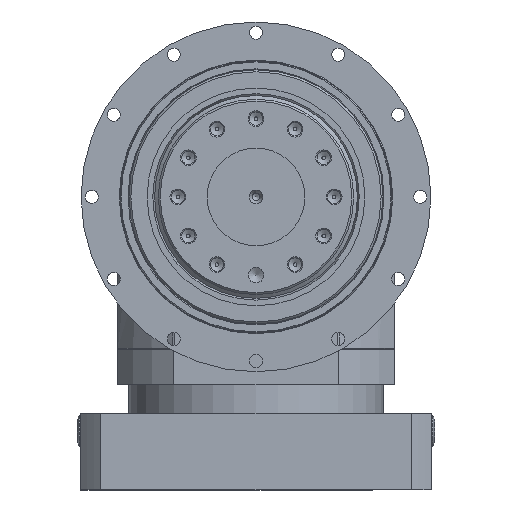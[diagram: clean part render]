
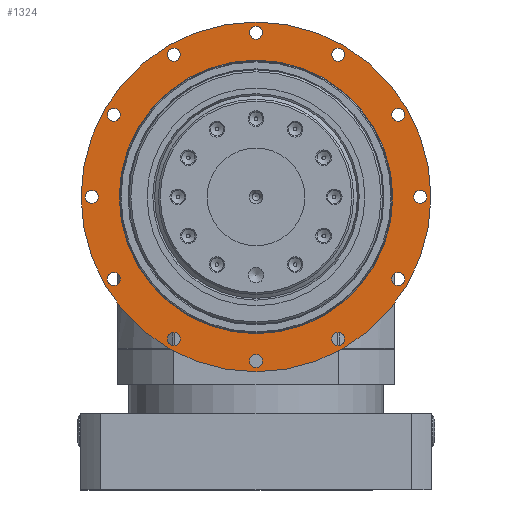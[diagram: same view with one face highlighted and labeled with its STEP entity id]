
A CAD part, left-side view. The second image highlights one B-rep face of the part: STEP entity #1324.
In plain terms, the highlighted planar face has unit normal (-1, 0, 0).
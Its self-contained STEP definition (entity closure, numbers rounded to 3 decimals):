
#122 = FACE_BOUND ( 'NONE', #4419, .T. ) ;
#356 = CIRCLE ( 'NONE', #11485, 3.3 ) ;
#486 = AXIS2_PLACEMENT_3D ( 'NONE', #10011, #10072, #11437 ) ;
#623 = DIRECTION ( 'NONE',  ( -1., 0., 0. ) ) ;
#681 = DIRECTION ( 'NONE',  ( 0., 0., 1. ) ) ;
#885 = EDGE_CURVE ( 'NONE', #9227, #9227, #6410, .T. ) ;
#926 = CIRCLE ( 'NONE', #486, 3.3 ) ;
#958 = VERTEX_POINT ( 'NONE', #5589 ) ;
#1005 = DIRECTION ( 'NONE',  ( -1., 0., 0. ) ) ;
#1324 = ADVANCED_FACE ( 'NONE', ( #3575, #10211, #122, #13407, #6193, #2750, #15624, #12218, #8806, #11821, #8387, #4987, #1537, #3133 ), #10986, .F. ) ;
#1537 = FACE_BOUND ( 'NONE', #12781, .T. ) ;
#1880 = CARTESIAN_POINT ( 'NONE',  ( -48.5, 0., 84. ) ) ;
#1935 = VERTEX_POINT ( 'NONE', #6717 ) ;
#2070 = CARTESIAN_POINT ( 'NONE',  ( -48.5, 0., 89.5 ) ) ;
#2124 = CARTESIAN_POINT ( 'NONE',  ( -48.5, 72.746, -38.7 ) ) ;
#2707 = CARTESIAN_POINT ( 'NONE',  ( -48.5, -84., 3.3 ) ) ;
#2739 = AXIS2_PLACEMENT_3D ( 'NONE', #4477, #623, #4252 ) ;
#2750 = FACE_BOUND ( 'NONE', #8729, .T. ) ;
#2867 = DIRECTION ( 'NONE',  ( 0., 0., 1. ) ) ;
#3038 = CIRCLE ( 'NONE', #7899, 3.3 ) ;
#3056 = EDGE_LOOP ( 'NONE', ( #4514 ) ) ;
#3133 = FACE_OUTER_BOUND ( 'NONE', #3056, .T. ) ;
#3146 = CARTESIAN_POINT ( 'NONE',  ( -48.5, -42., -69.446 ) ) ;
#3314 = CARTESIAN_POINT ( 'NONE',  ( -48.5, -72.746, -38.7 ) ) ;
#3501 = CARTESIAN_POINT ( 'NONE',  ( -48.5, 0., 70. ) ) ;
#3575 = FACE_BOUND ( 'NONE', #11462, .T. ) ;
#3779 = ORIENTED_EDGE ( 'NONE', *, *, #6993, .F. ) ;
#3882 = EDGE_LOOP ( 'NONE', ( #3779 ) ) ;
#4139 = AXIS2_PLACEMENT_3D ( 'NONE', #10358, #11639, #12869 ) ;
#4155 = EDGE_CURVE ( 'NONE', #5394, #5394, #3038, .T. ) ;
#4246 = CARTESIAN_POINT ( 'NONE',  ( -48.5, 84., 3.3 ) ) ;
#4252 = DIRECTION ( 'NONE',  ( 0., 0., 1. ) ) ;
#4286 = AXIS2_PLACEMENT_3D ( 'NONE', #11259, #12334, #9785 ) ;
#4388 = VERTEX_POINT ( 'NONE', #9407 ) ;
#4419 = EDGE_LOOP ( 'NONE', ( #14972 ) ) ;
#4471 = EDGE_LOOP ( 'NONE', ( #4990 ) ) ;
#4477 = CARTESIAN_POINT ( 'NONE',  ( -48.5, -42., 72.746 ) ) ;
#4503 = DIRECTION ( 'NONE',  ( -1., 0., 0. ) ) ;
#4511 = ORIENTED_EDGE ( 'NONE', *, *, #4155, .F. ) ;
#4514 = ORIENTED_EDGE ( 'NONE', *, *, #14820, .T. ) ;
#4575 = VERTEX_POINT ( 'NONE', #2070 ) ;
#4800 = DIRECTION ( 'NONE',  ( -1., 0., 0. ) ) ;
#4955 = DIRECTION ( 'NONE',  ( 0., 0., 1. ) ) ;
#4963 = CIRCLE ( 'NONE', #4286, 3.3 ) ;
#4987 = FACE_BOUND ( 'NONE', #15928, .T. ) ;
#4990 = ORIENTED_EDGE ( 'NONE', *, *, #9610, .F. ) ;
#5002 = ORIENTED_EDGE ( 'NONE', *, *, #5663, .F. ) ;
#5005 = ORIENTED_EDGE ( 'NONE', *, *, #15654, .F. ) ;
#5094 = DIRECTION ( 'NONE',  ( -1., 0., 0. ) ) ;
#5110 = ORIENTED_EDGE ( 'NONE', *, *, #16584, .F. ) ;
#5168 = EDGE_CURVE ( 'NONE', #958, #958, #356, .T. ) ;
#5230 = CIRCLE ( 'NONE', #13585, 70. ) ;
#5267 = CIRCLE ( 'NONE', #7047, 3.3 ) ;
#5308 = ORIENTED_EDGE ( 'NONE', *, *, #885, .F. ) ;
#5394 = VERTEX_POINT ( 'NONE', #4246 ) ;
#5589 = CARTESIAN_POINT ( 'NONE',  ( -48.5, 0., -80.7 ) ) ;
#5663 = EDGE_CURVE ( 'NONE', #4388, #4388, #5267, .T. ) ;
#5682 = DIRECTION ( 'NONE',  ( 0., 0., 1. ) ) ;
#5773 = VERTEX_POINT ( 'NONE', #3314 ) ;
#5786 = ORIENTED_EDGE ( 'NONE', *, *, #9661, .F. ) ;
#6153 = CARTESIAN_POINT ( 'NONE',  ( -48.5, -84., 0. ) ) ;
#6193 = FACE_BOUND ( 'NONE', #8058, .T. ) ;
#6194 = CIRCLE ( 'NONE', #11157, 3.3 ) ;
#6370 = CIRCLE ( 'NONE', #16664, 3.3 ) ;
#6410 = CIRCLE ( 'NONE', #10432, 3.3 ) ;
#6717 = CARTESIAN_POINT ( 'NONE',  ( -48.5, 42., -69.446 ) ) ;
#6723 = CARTESIAN_POINT ( 'NONE',  ( -48.5, -72.746, 42. ) ) ;
#6770 = VERTEX_POINT ( 'NONE', #3501 ) ;
#6993 = EDGE_CURVE ( 'NONE', #16020, #16020, #6194, .T. ) ;
#7047 = AXIS2_PLACEMENT_3D ( 'NONE', #1880, #8479, #5682 ) ;
#7205 = DIRECTION ( 'NONE',  ( -1., 0., 0. ) ) ;
#7228 = EDGE_LOOP ( 'NONE', ( #5110 ) ) ;
#7529 = ORIENTED_EDGE ( 'NONE', *, *, #14310, .F. ) ;
#7585 = VERTEX_POINT ( 'NONE', #16366 ) ;
#7899 = AXIS2_PLACEMENT_3D ( 'NONE', #9602, #4503, #14759 ) ;
#8055 = CARTESIAN_POINT ( 'NONE',  ( -48.5, 0., -84. ) ) ;
#8058 = EDGE_LOOP ( 'NONE', ( #8529 ) ) ;
#8263 = EDGE_CURVE ( 'NONE', #1935, #1935, #16295, .T. ) ;
#8387 = FACE_BOUND ( 'NONE', #14651, .T. ) ;
#8479 = DIRECTION ( 'NONE',  ( -1., 0., 0. ) ) ;
#8492 = DIRECTION ( 'NONE',  ( 0., 0., -1. ) ) ;
#8529 = ORIENTED_EDGE ( 'NONE', *, *, #9520, .F. ) ;
#8692 = ORIENTED_EDGE ( 'NONE', *, *, #8263, .F. ) ;
#8729 = EDGE_LOOP ( 'NONE', ( #5308 ) ) ;
#8749 = ORIENTED_EDGE ( 'NONE', *, *, #14992, .F. ) ;
#8806 = FACE_BOUND ( 'NONE', #15014, .T. ) ;
#9200 = DIRECTION ( 'NONE',  ( 0., 0., 1. ) ) ;
#9227 = VERTEX_POINT ( 'NONE', #2707 ) ;
#9253 = DIRECTION ( 'NONE',  ( -1., 0., 0. ) ) ;
#9359 = CARTESIAN_POINT ( 'NONE',  ( -48.5, -72.746, 45.3 ) ) ;
#9407 = CARTESIAN_POINT ( 'NONE',  ( -48.5, 0., 87.3 ) ) ;
#9435 = CIRCLE ( 'NONE', #2739, 3.3 ) ;
#9520 = EDGE_CURVE ( 'NONE', #5773, #5773, #4963, .T. ) ;
#9602 = CARTESIAN_POINT ( 'NONE',  ( -48.5, 84., 0. ) ) ;
#9610 = EDGE_CURVE ( 'NONE', #10821, #10821, #6370, .T. ) ;
#9661 = EDGE_CURVE ( 'NONE', #16642, #16642, #926, .T. ) ;
#9785 = DIRECTION ( 'NONE',  ( 0., 0., 1. ) ) ;
#9879 = CIRCLE ( 'NONE', #11460, 3.3 ) ;
#10011 = CARTESIAN_POINT ( 'NONE',  ( -48.5, 42., 72.746 ) ) ;
#10072 = DIRECTION ( 'NONE',  ( -1., 0., 0. ) ) ;
#10104 = EDGE_LOOP ( 'NONE', ( #5786 ) ) ;
#10211 = FACE_BOUND ( 'NONE', #11544, .T. ) ;
#10236 = CARTESIAN_POINT ( 'NONE',  ( -48.5, 0., 0. ) ) ;
#10358 = CARTESIAN_POINT ( 'NONE',  ( -48.5, 72.746, 42. ) ) ;
#10432 = AXIS2_PLACEMENT_3D ( 'NONE', #6153, #5094, #15196 ) ;
#10490 = CIRCLE ( 'NONE', #14557, 89.5 ) ;
#10649 = DIRECTION ( 'NONE',  ( -1., 0., 0. ) ) ;
#10821 = VERTEX_POINT ( 'NONE', #3146 ) ;
#10894 = CARTESIAN_POINT ( 'NONE',  ( -48.5, 0., 0. ) ) ;
#10986 = PLANE ( 'NONE',  #12154 ) ;
#10993 = CARTESIAN_POINT ( 'NONE',  ( -48.5, 42., 76.046 ) ) ;
#11054 = DIRECTION ( 'NONE',  ( -1., 0., 0. ) ) ;
#11101 = CARTESIAN_POINT ( 'NONE',  ( -48.5, 72.746, 45.3 ) ) ;
#11157 = AXIS2_PLACEMENT_3D ( 'NONE', #6723, #9253, #9200 ) ;
#11166 = DIRECTION ( 'NONE',  ( 0., 0., 1. ) ) ;
#11259 = CARTESIAN_POINT ( 'NONE',  ( -48.5, -72.746, -42. ) ) ;
#11264 = CARTESIAN_POINT ( 'NONE',  ( -48.5, 42., -72.746 ) ) ;
#11437 = DIRECTION ( 'NONE',  ( 0., 0., 1. ) ) ;
#11460 = AXIS2_PLACEMENT_3D ( 'NONE', #12400, #14966, #11166 ) ;
#11462 = EDGE_LOOP ( 'NONE', ( #7529 ) ) ;
#11485 = AXIS2_PLACEMENT_3D ( 'NONE', #8055, #10649, #2867 ) ;
#11544 = EDGE_LOOP ( 'NONE', ( #8692 ) ) ;
#11639 = DIRECTION ( 'NONE',  ( -1., 0., 0. ) ) ;
#11821 = FACE_BOUND ( 'NONE', #10104, .T. ) ;
#12154 = AXIS2_PLACEMENT_3D ( 'NONE', #16176, #16114, #8492 ) ;
#12218 = FACE_BOUND ( 'NONE', #7228, .T. ) ;
#12334 = DIRECTION ( 'NONE',  ( -1., 0., 0. ) ) ;
#12400 = CARTESIAN_POINT ( 'NONE',  ( -48.5, 72.746, -42. ) ) ;
#12501 = CARTESIAN_POINT ( 'NONE',  ( -48.5, -42., -72.746 ) ) ;
#12781 = EDGE_LOOP ( 'NONE', ( #5005 ) ) ;
#12869 = DIRECTION ( 'NONE',  ( 0., 0., 1. ) ) ;
#13407 = FACE_BOUND ( 'NONE', #4471, .T. ) ;
#13585 = AXIS2_PLACEMENT_3D ( 'NONE', #10894, #11054, #681 ) ;
#13722 = DIRECTION ( 'NONE',  ( 0., 0., 1. ) ) ;
#14310 = EDGE_CURVE ( 'NONE', #16204, #16204, #9879, .T. ) ;
#14557 = AXIS2_PLACEMENT_3D ( 'NONE', #10236, #1005, #4955 ) ;
#14651 = EDGE_LOOP ( 'NONE', ( #8749 ) ) ;
#14759 = DIRECTION ( 'NONE',  ( 0., 0., 1. ) ) ;
#14820 = EDGE_CURVE ( 'NONE', #4575, #4575, #10490, .T. ) ;
#14966 = DIRECTION ( 'NONE',  ( -1., 0., 0. ) ) ;
#14972 = ORIENTED_EDGE ( 'NONE', *, *, #5168, .F. ) ;
#14992 = EDGE_CURVE ( 'NONE', #15219, #15219, #16704, .T. ) ;
#15014 = EDGE_LOOP ( 'NONE', ( #5002 ) ) ;
#15058 = DIRECTION ( 'NONE',  ( 0., 0., 1. ) ) ;
#15196 = DIRECTION ( 'NONE',  ( 0., 0., 1. ) ) ;
#15219 = VERTEX_POINT ( 'NONE', #11101 ) ;
#15624 = FACE_BOUND ( 'NONE', #3882, .T. ) ;
#15654 = EDGE_CURVE ( 'NONE', #6770, #6770, #5230, .T. ) ;
#15928 = EDGE_LOOP ( 'NONE', ( #4511 ) ) ;
#15974 = AXIS2_PLACEMENT_3D ( 'NONE', #11264, #7205, #13722 ) ;
#16020 = VERTEX_POINT ( 'NONE', #9359 ) ;
#16114 = DIRECTION ( 'NONE',  ( 1., 0., 0. ) ) ;
#16176 = CARTESIAN_POINT ( 'NONE',  ( -48.5, 89.5, 0. ) ) ;
#16204 = VERTEX_POINT ( 'NONE', #2124 ) ;
#16295 = CIRCLE ( 'NONE', #15974, 3.3 ) ;
#16366 = CARTESIAN_POINT ( 'NONE',  ( -48.5, -42., 76.046 ) ) ;
#16584 = EDGE_CURVE ( 'NONE', #7585, #7585, #9435, .T. ) ;
#16642 = VERTEX_POINT ( 'NONE', #10993 ) ;
#16664 = AXIS2_PLACEMENT_3D ( 'NONE', #12501, #4800, #15058 ) ;
#16704 = CIRCLE ( 'NONE', #4139, 3.3 ) ;
